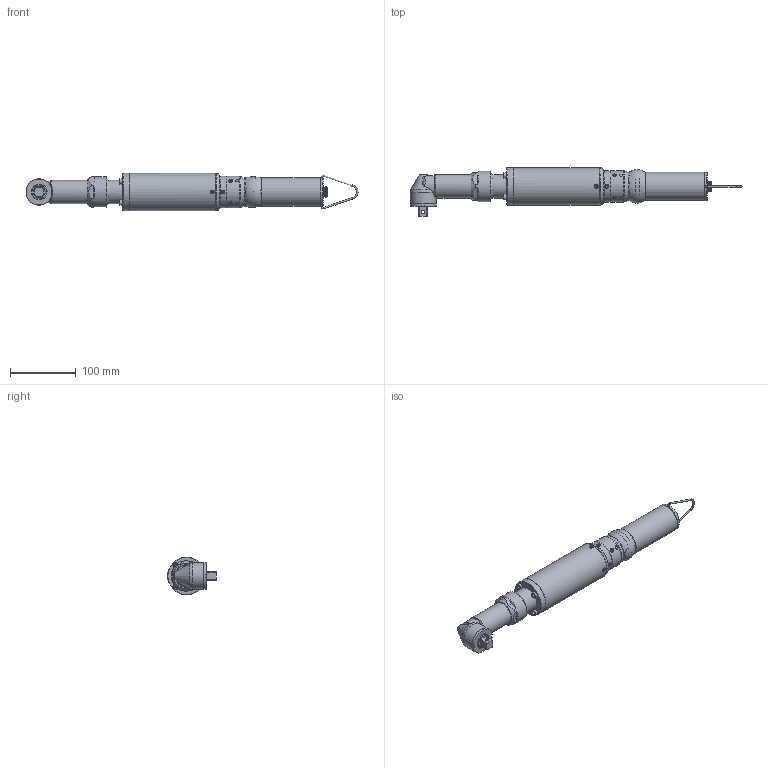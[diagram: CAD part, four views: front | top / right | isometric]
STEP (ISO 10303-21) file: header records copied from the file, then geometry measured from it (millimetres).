
FILE_DESCRIPTION (( 'STEP AP214' ), '1' );
FILE_NAME ('135070-KDS-PL70ANG.STEP', '2023-03-03T10:48:02', ( '' ), ( '' ), 'SwSTEP 2.0', 'SolidWorks 2022', '' );
FILE_SCHEMA (( 'AUTOMOTIVE_DESIGN' ));
Length unit declared in the file: millimetre
Products named in the file (1): 135070-KDS-PL70ANG
Bounding box: 505.8 x 74 x 57 mm (x, y, z)
Surface area: 113751.5 mm2 (no closed solid volume)
Topology: 0 solids, 55 shells, 376 faces, 1238 edges, 867 vertices
Faces by surface type: cylinder 159, plane 118, cone 40, bspline 34, torus 23, sphere 2
Full cylindrical faces by diameter (mm): 1 x10, 2.2 x3, 2.8 x2, 5 x1, 5.004 x2, 5.1 x2, 5.25 x1, 5.5 x12, 8.4 x4, 11.8 x1, 12 x1, 14.85 x2, 16 x1, 17.216 x1, 18 x1, 22.784 x2, 24 x1, 35.5 x1, 36 x1, 40 x1, 40.5 x1, 41.6 x1, 43 x2, 46 x1, 48 x2, 57 x3
Entity records: 21538 total; most frequent: CARTESIAN_POINT 7754, DIRECTION 2060, ORIENTED_EDGE 1600, EDGE_CURVE 1039, AXIS2_PLACEMENT_3D 870, VERTEX_POINT 803, EDGE_LOOP 563, CIRCLE 528
